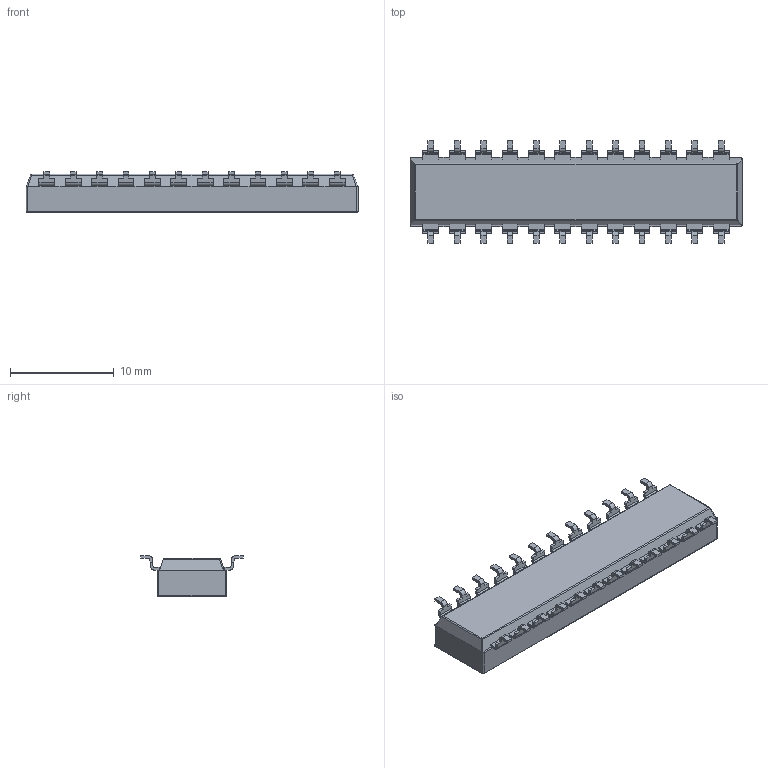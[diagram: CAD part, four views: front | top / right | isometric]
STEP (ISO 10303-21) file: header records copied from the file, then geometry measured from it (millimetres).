
FILE_DESCRIPTION((''),'2;1');
FILE_NAME('SD12-HOUSING','2011-03-18T',('cbachill'),(''),'PRO/ENGINEER BY PARAMETRIC TECHNOLOGY CORPORATION, 2009380','PRO/ENGINEER BY PARAMETRIC TECHNOLOGY CORPORATION, 2009380','');
FILE_SCHEMA(('AUTOMOTIVE_DESIGN_CC2 { 1 2 10303 214 -1 1 5 2 }'));
Length unit declared in the file: inch
Products named in the file (1): SD12-HOUSING
Bounding box: 31.95 x 9.91 x 3.94 mm (x, y, z)
Volume: 740 mm3; surface area: 989.8 mm2
Topology: 1 solids, 1 shells, 776 faces, 2768 edges, 2750 vertices
Faces by surface type: plane 514, cylinder 207, sphere 55
Entity records: 27356 total; most frequent: CARTESIAN_POINT 4876, DIRECTION 4781, ORIENTED_EDGE 4072, VECTOR 2355, LINE 2355, EDGE_CURVE 2036, VERTEX_POINT 1286, AXIS2_PLACEMENT_3D 1213
